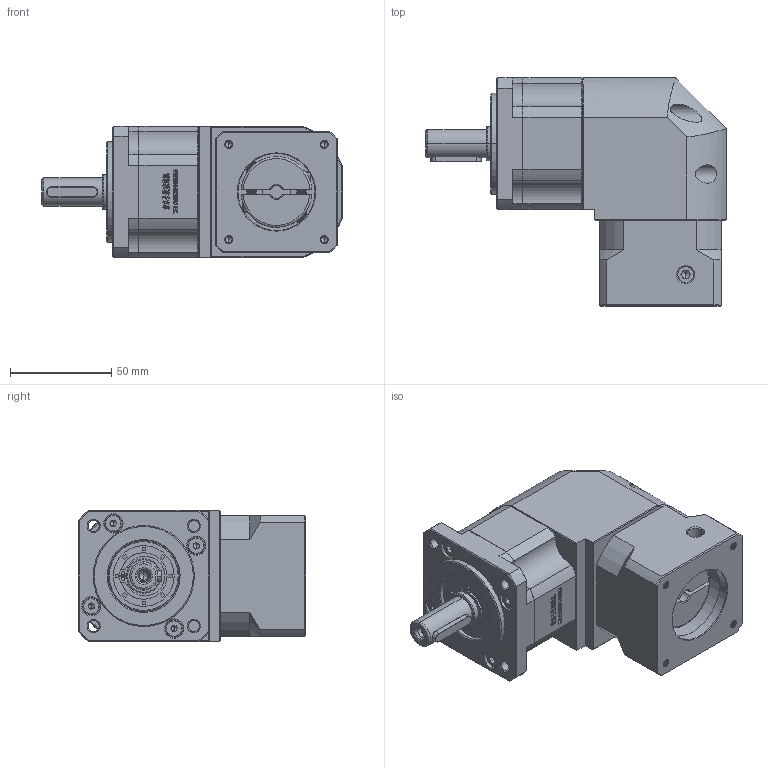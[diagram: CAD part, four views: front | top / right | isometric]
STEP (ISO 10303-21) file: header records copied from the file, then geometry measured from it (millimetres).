
FILE_DESCRIPTION (( 'STEP AP214' ), '1' );
FILE_NAME ('ZBR60-D14-L1-6.35-38.1-47.14x47.14-M4.STEP', '2022-04-19T08:11:21', ( '' ), ( 'Microsoft' ), 'SwSTEP 2.0', 'SolidWorks 2016', '' );
FILE_SCHEMA (( 'AUTOMOTIVE_DESIGN' ));
Length unit declared in the file: millimetre
Products named in the file (1): ZBR60-D14-L1-6.35-38.1-47.14x47.14-M4
Bounding box: 148.5 x 112.7 x 65 mm (x, y, z)
Volume: 531073.1 mm3; surface area: 78993.9 mm2
Topology: 5 solids, 5 shells, 2839 faces, 7670 edges, 4968 vertices
Faces by surface type: plane 1473, bspline 591, cylinder 426, cone 327, torus 22
Entity records: 153012 total; most frequent: CARTESIAN_POINT 54854, ORIENTED_EDGE 15280, DIRECTION 11608, EDGE_CURVE 7640, LINE 5040, VECTOR 5040, VERTEX_POINT 4968, AXIS2_PLACEMENT_3D 3284
